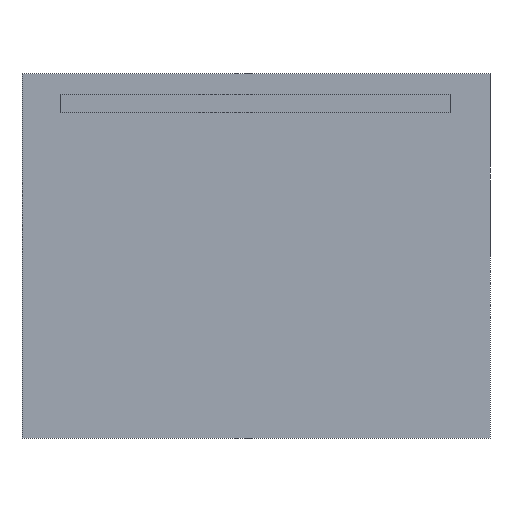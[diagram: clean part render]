
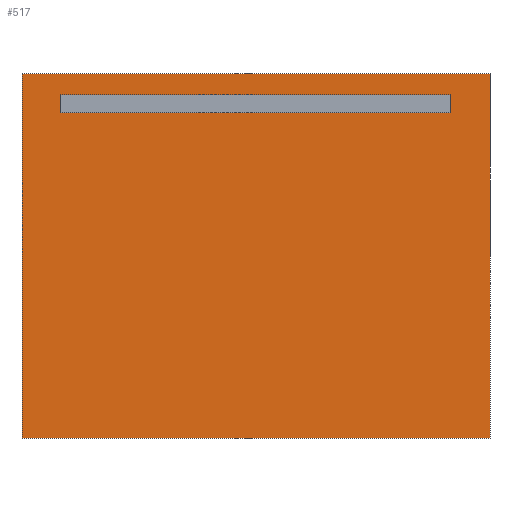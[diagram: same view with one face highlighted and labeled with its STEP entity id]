
A CAD part, front view. The second image highlights one B-rep face of the part: STEP entity #517.
In plain terms, the highlighted planar face has unit normal (0, -1, 0).
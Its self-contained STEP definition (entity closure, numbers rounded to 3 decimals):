
#47=FACE_BOUND('',#92,.T.);
#62=FACE_OUTER_BOUND('',#91,.T.);
#91=EDGE_LOOP('',(#359,#360,#361,#362));
#92=EDGE_LOOP('',(#363,#364,#365,#366));
#115=LINE('',#766,#159);
#119=LINE('',#774,#163);
#122=LINE('',#780,#166);
#125=LINE('',#785,#169);
#127=LINE('',#791,#171);
#131=LINE('',#799,#175);
#134=LINE('',#805,#178);
#137=LINE('',#810,#181);
#159=VECTOR('',#614,10.);
#163=VECTOR('',#620,10.);
#166=VECTOR('',#625,10.);
#169=VECTOR('',#630,10.);
#171=VECTOR('',#636,10.);
#175=VECTOR('',#642,10.);
#178=VECTOR('',#647,10.);
#181=VECTOR('',#652,10.);
#203=VERTEX_POINT('',#764);
#204=VERTEX_POINT('',#765);
#207=VERTEX_POINT('',#773);
#209=VERTEX_POINT('',#779);
#211=VERTEX_POINT('',#789);
#212=VERTEX_POINT('',#790);
#215=VERTEX_POINT('',#798);
#217=VERTEX_POINT('',#804);
#251=EDGE_CURVE('',#203,#204,#115,.T.);
#255=EDGE_CURVE('',#207,#203,#119,.T.);
#258=EDGE_CURVE('',#209,#207,#122,.T.);
#261=EDGE_CURVE('',#204,#209,#125,.T.);
#263=EDGE_CURVE('',#211,#212,#127,.T.);
#267=EDGE_CURVE('',#215,#211,#131,.T.);
#270=EDGE_CURVE('',#217,#215,#134,.T.);
#273=EDGE_CURVE('',#212,#217,#137,.T.);
#359=ORIENTED_EDGE('',*,*,#273,.F.);
#360=ORIENTED_EDGE('',*,*,#263,.F.);
#361=ORIENTED_EDGE('',*,*,#267,.F.);
#362=ORIENTED_EDGE('',*,*,#270,.F.);
#363=ORIENTED_EDGE('',*,*,#251,.T.);
#364=ORIENTED_EDGE('',*,*,#261,.T.);
#365=ORIENTED_EDGE('',*,*,#258,.T.);
#366=ORIENTED_EDGE('',*,*,#255,.T.);
#465=PLANE('',#567);
#517=ADVANCED_FACE('',(#62,#47),#465,.F.);
#567=AXIS2_PLACEMENT_3D('',#813,#656,#657);
#614=DIRECTION('',(0.,0.,-1.));
#620=DIRECTION('',(1.,0.,0.));
#625=DIRECTION('',(0.,0.,1.));
#630=DIRECTION('',(-1.,0.,0.));
#636=DIRECTION('',(0.,0.,1.));
#642=DIRECTION('',(-1.,0.,0.));
#647=DIRECTION('',(0.,0.,-1.));
#652=DIRECTION('',(1.,0.,0.));
#656=DIRECTION('center_axis',(0.,1.,0.));
#657=DIRECTION('ref_axis',(0.,0.,1.));
#764=CARTESIAN_POINT('',(375.,-26.,660.));
#765=CARTESIAN_POINT('',(375.,-26.,625.));
#766=CARTESIAN_POINT('',(375.,-26.,505.));
#773=CARTESIAN_POINT('',(-375.,-26.,660.));
#774=CARTESIAN_POINT('',(-187.5,-26.,660.));
#779=CARTESIAN_POINT('',(-375.,-26.,625.));
#780=CARTESIAN_POINT('',(-375.,-26.,487.5));
#785=CARTESIAN_POINT('',(187.5,-26.,625.));
#789=CARTESIAN_POINT('',(-450.,-26.,0.));
#790=CARTESIAN_POINT('',(-450.,-26.,700.));
#791=CARTESIAN_POINT('',(-450.,-26.,0.));
#798=CARTESIAN_POINT('',(450.,-26.,0.));
#799=CARTESIAN_POINT('',(450.,-26.,0.));
#804=CARTESIAN_POINT('',(450.,-26.,700.));
#805=CARTESIAN_POINT('',(450.,-26.,700.));
#810=CARTESIAN_POINT('',(-450.,-26.,700.));
#813=CARTESIAN_POINT('Origin',(0.,-26.,350.));
